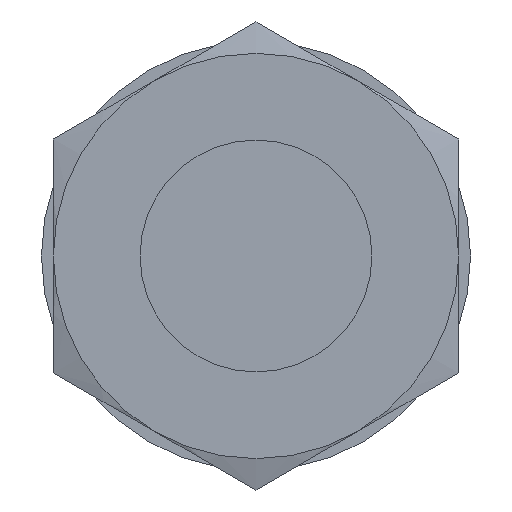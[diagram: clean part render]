
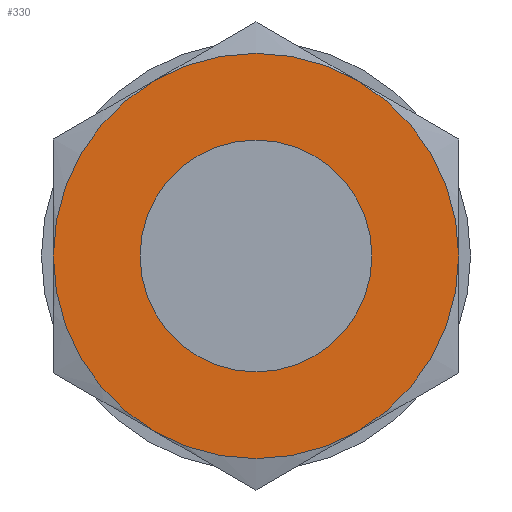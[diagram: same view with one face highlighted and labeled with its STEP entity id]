
A CAD part, front view. The second image highlights one B-rep face of the part: STEP entity #330.
In plain terms, the highlighted planar face has unit normal (0, -1, 0).
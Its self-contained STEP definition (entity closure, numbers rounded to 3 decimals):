
#15 = DIRECTION ( 'NONE',  ( 0., -1., 0. ) ) ;
#57 = EDGE_CURVE ( 'NONE', #1119, #1516, #163, .T. ) ;
#86 = DIRECTION ( 'NONE',  ( 0., -1., 0. ) ) ;
#87 = CIRCLE ( 'NONE', #987, 8.5 ) ;
#163 = CIRCLE ( 'NONE', #1517, 8.5 ) ;
#165 = DIRECTION ( 'NONE',  ( 1., 0., 0. ) ) ;
#167 = DIRECTION ( 'NONE',  ( 1., 0., 0. ) ) ;
#191 = CARTESIAN_POINT ( 'NONE',  ( -4.25, 2.78, -7.361 ) ) ;
#192 = EDGE_LOOP ( 'NONE', ( #1069, #912, #336, #879, #989, #519 ) ) ;
#271 = AXIS2_PLACEMENT_3D ( 'NONE', #1440, #781, #1308 ) ;
#299 = CARTESIAN_POINT ( 'NONE',  ( 8.5, 2.78, 0. ) ) ;
#306 = VERTEX_POINT ( 'NONE', #1084 ) ;
#309 = PLANE ( 'NONE',  #1384 ) ;
#330 = ADVANCED_FACE ( 'NONE', ( #1499, #1604 ), #309, .F. ) ;
#336 = ORIENTED_EDGE ( 'NONE', *, *, #1223, .T. ) ;
#339 = DIRECTION ( 'NONE',  ( 0., -1., 0. ) ) ;
#412 = EDGE_CURVE ( 'NONE', #785, #1545, #422, .T. ) ;
#422 = CIRCLE ( 'NONE', #1222, 8.5 ) ;
#423 = EDGE_CURVE ( 'NONE', #1317, #1558, #642, .T. ) ;
#457 = CARTESIAN_POINT ( 'NONE',  ( 0., 2.78, 0. ) ) ;
#519 = ORIENTED_EDGE ( 'NONE', *, *, #893, .T. ) ;
#547 = CARTESIAN_POINT ( 'NONE',  ( -8.5, 2.78, 0. ) ) ;
#559 = CIRCLE ( 'NONE', #854, 8.5 ) ;
#567 = DIRECTION ( 'NONE',  ( 0., 1., 0. ) ) ;
#611 = CIRCLE ( 'NONE', #747, 8.5 ) ;
#642 = CIRCLE ( 'NONE', #696, 4.864 ) ;
#653 = DIRECTION ( 'NONE',  ( 1., 0., 0. ) ) ;
#667 = CARTESIAN_POINT ( 'NONE',  ( 4.864, 2.78, 0. ) ) ;
#684 = DIRECTION ( 'NONE',  ( 1., 0., 0. ) ) ;
#696 = AXIS2_PLACEMENT_3D ( 'NONE', #1399, #86, #1263 ) ;
#706 = CARTESIAN_POINT ( 'NONE',  ( 0., 2.78, 0. ) ) ;
#747 = AXIS2_PLACEMENT_3D ( 'NONE', #1579, #1606, #653 ) ;
#779 = ORIENTED_EDGE ( 'NONE', *, *, #423, .F. ) ;
#781 = DIRECTION ( 'NONE',  ( 0., -1., 0. ) ) ;
#785 = VERTEX_POINT ( 'NONE', #547 ) ;
#819 = CARTESIAN_POINT ( 'NONE',  ( 0., 2.78, 0. ) ) ;
#849 = DIRECTION ( 'NONE',  ( 1., 0., 0. ) ) ;
#854 = AXIS2_PLACEMENT_3D ( 'NONE', #1208, #1218, #1089 ) ;
#879 = ORIENTED_EDGE ( 'NONE', *, *, #1563, .T. ) ;
#893 = EDGE_CURVE ( 'NONE', #1545, #1423, #1473, .T. ) ;
#912 = ORIENTED_EDGE ( 'NONE', *, *, #57, .T. ) ;
#935 = CIRCLE ( 'NONE', #271, 4.864 ) ;
#982 = DIRECTION ( 'NONE',  ( 0., -1., 0. ) ) ;
#987 = AXIS2_PLACEMENT_3D ( 'NONE', #819, #15, #167 ) ;
#989 = ORIENTED_EDGE ( 'NONE', *, *, #412, .T. ) ;
#1016 = CARTESIAN_POINT ( 'NONE',  ( 4.25, 2.78, -7.361 ) ) ;
#1019 = EDGE_CURVE ( 'NONE', #1558, #1317, #935, .T. ) ;
#1069 = ORIENTED_EDGE ( 'NONE', *, *, #1455, .T. ) ;
#1084 = CARTESIAN_POINT ( 'NONE',  ( -4.25, 2.78, 7.361 ) ) ;
#1089 = DIRECTION ( 'NONE',  ( 1., 0., 0. ) ) ;
#1118 = DIRECTION ( 'NONE',  ( 0., -1., 0. ) ) ;
#1119 = VERTEX_POINT ( 'NONE', #1617 ) ;
#1197 = ORIENTED_EDGE ( 'NONE', *, *, #1019, .F. ) ;
#1208 = CARTESIAN_POINT ( 'NONE',  ( 0., 2.78, 0. ) ) ;
#1218 = DIRECTION ( 'NONE',  ( 0., -1., 0. ) ) ;
#1222 = AXIS2_PLACEMENT_3D ( 'NONE', #457, #1118, #1392 ) ;
#1223 = EDGE_CURVE ( 'NONE', #1516, #306, #559, .T. ) ;
#1263 = DIRECTION ( 'NONE',  ( 1., 0., 0. ) ) ;
#1308 = DIRECTION ( 'NONE',  ( 1., 0., 0. ) ) ;
#1317 = VERTEX_POINT ( 'NONE', #1413 ) ;
#1367 = CARTESIAN_POINT ( 'NONE',  ( 4.25, 2.78, 7.361 ) ) ;
#1384 = AXIS2_PLACEMENT_3D ( 'NONE', #299, #567, #684 ) ;
#1392 = DIRECTION ( 'NONE',  ( 1., 0., 0. ) ) ;
#1399 = CARTESIAN_POINT ( 'NONE',  ( 0., 2.78, 0. ) ) ;
#1413 = CARTESIAN_POINT ( 'NONE',  ( -4.864, 2.78, 0. ) ) ;
#1423 = VERTEX_POINT ( 'NONE', #1016 ) ;
#1440 = CARTESIAN_POINT ( 'NONE',  ( 0., 2.78, 0. ) ) ;
#1455 = EDGE_CURVE ( 'NONE', #1423, #1119, #611, .T. ) ;
#1473 = CIRCLE ( 'NONE', #1692, 8.5 ) ;
#1499 = FACE_OUTER_BOUND ( 'NONE', #192, .T. ) ;
#1516 = VERTEX_POINT ( 'NONE', #1367 ) ;
#1517 = AXIS2_PLACEMENT_3D ( 'NONE', #706, #982, #165 ) ;
#1545 = VERTEX_POINT ( 'NONE', #191 ) ;
#1558 = VERTEX_POINT ( 'NONE', #667 ) ;
#1563 = EDGE_CURVE ( 'NONE', #306, #785, #87, .T. ) ;
#1579 = CARTESIAN_POINT ( 'NONE',  ( 0., 2.78, 0. ) ) ;
#1604 = FACE_BOUND ( 'NONE', #1637, .T. ) ;
#1606 = DIRECTION ( 'NONE',  ( 0., -1., 0. ) ) ;
#1617 = CARTESIAN_POINT ( 'NONE',  ( 8.5, 2.78, 0. ) ) ;
#1637 = EDGE_LOOP ( 'NONE', ( #1197, #779 ) ) ;
#1662 = CARTESIAN_POINT ( 'NONE',  ( 0., 2.78, 0. ) ) ;
#1692 = AXIS2_PLACEMENT_3D ( 'NONE', #1662, #339, #849 ) ;
